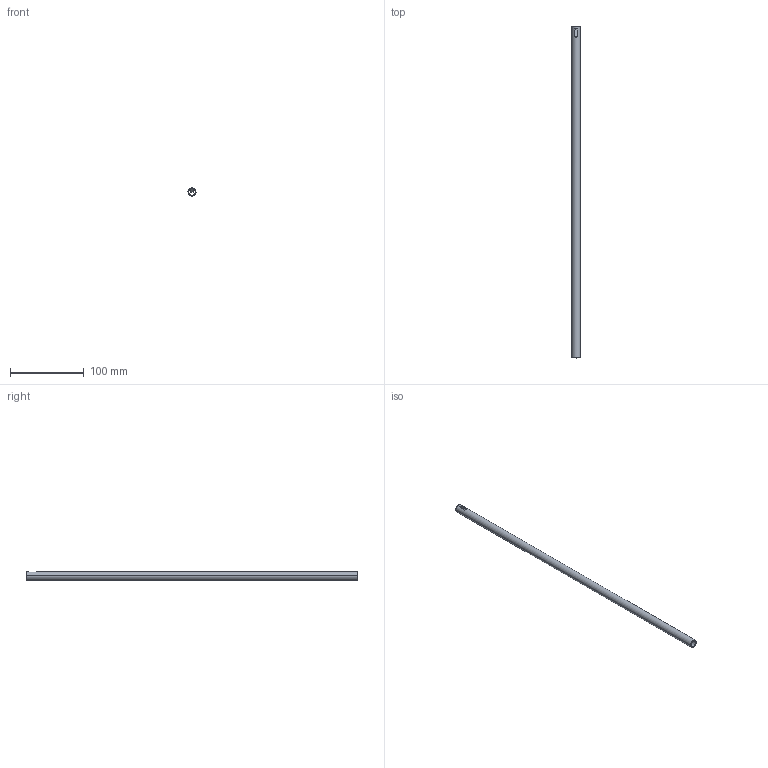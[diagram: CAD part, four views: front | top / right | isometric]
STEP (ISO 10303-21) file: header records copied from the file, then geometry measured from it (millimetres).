
FILE_DESCRIPTION (( 'STEP AP214' ), '1' );
FILE_NAME ('Relingsrohr_2S-Rundrel_P760604300_474.step', '2010-09-07T12:59:23', ( 'grass' ), ( '' ), 'SwSTEP 2.0', 'SolidWorks 2010', '' );
FILE_SCHEMA (( 'AUTOMOTIVE_DESIGN' ));
Length unit declared in the file: millimetre
Products named in the file (1): Relingsrohr_2S-Rundrel_P760604300_474
Bounding box: 11 x 450 x 11 mm (x, y, z)
Volume: 14134.9 mm3; surface area: 28377.6 mm2
Topology: 1 solids, 1 shells, 14 faces, 34 edges, 22 vertices
Faces by surface type: plane 10, cylinder 4
Entity records: 476 total; most frequent: CARTESIAN_POINT 77, DIRECTION 72, ORIENTED_EDGE 68, EDGE_CURVE 34, AXIS2_PLACEMENT_3D 25, VECTOR 22, LINE 22, VERTEX_POINT 22
